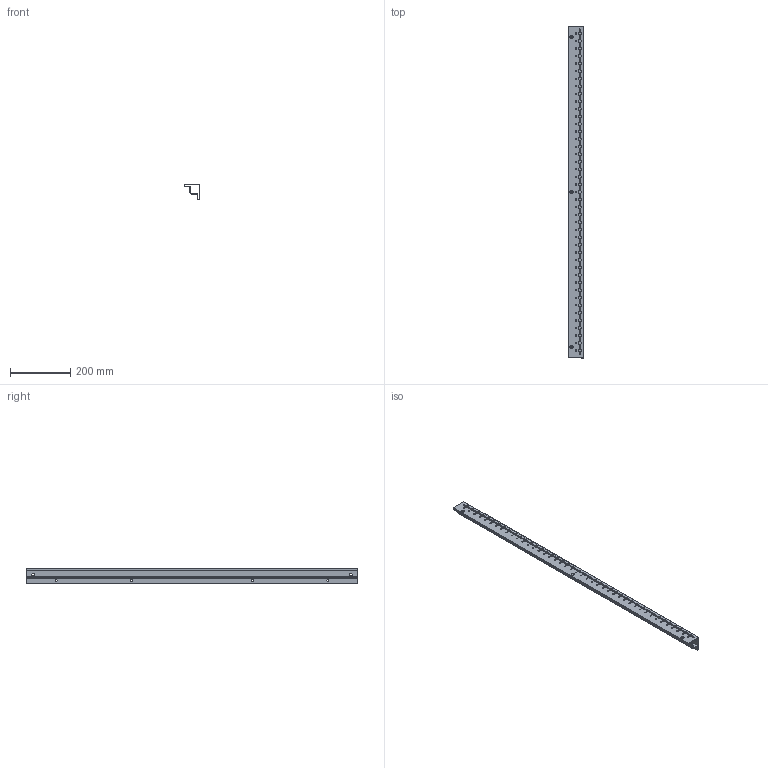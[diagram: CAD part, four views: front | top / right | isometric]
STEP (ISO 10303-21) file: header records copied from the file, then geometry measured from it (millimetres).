
FILE_DESCRIPTION(('Open CASCADE Model'),'2;1');
FILE_NAME('Open CASCADE Shape Model','2025-01-27T17:00:55',('Author'),( 'Open CASCADE'),'Open CASCADE STEP processor 7.8','Open CASCADE 7.8' ,'Unknown');
FILE_SCHEMA(('AUTOMOTIVE_DESIGN { 1 0 10303 214 1 1 1 1 }'));
Length unit declared in the file: millimetre
Products named in the file (2): Compound1; Solid1
Assembly tree (1 placements, depth 2):
  Compound1
    Solid1
Bounding box: 49.7 x 1099 x 49.7 mm (x, y, z)
Volume: 266368.9 mm3; surface area: 407277.9 mm2
Topology: 1 solids, 1 shells, 1743 faces, 5160 edges, 3440 vertices
Faces by surface type: cylinder 1052, plane 691
Full cylindrical faces by diameter (mm): 4.25 x174, 7 x7, 10 x4, 11 x7
Entity records: 60238 total; most frequent: DIRECTION 10754, CARTESIAN_POINT 10345, ORIENTED_EDGE 10320, EDGE_CURVE 5160, AXIS2_PLACEMENT_3D 3849, VERTEX_POINT 3440, LINE 3056, VECTOR 3056
